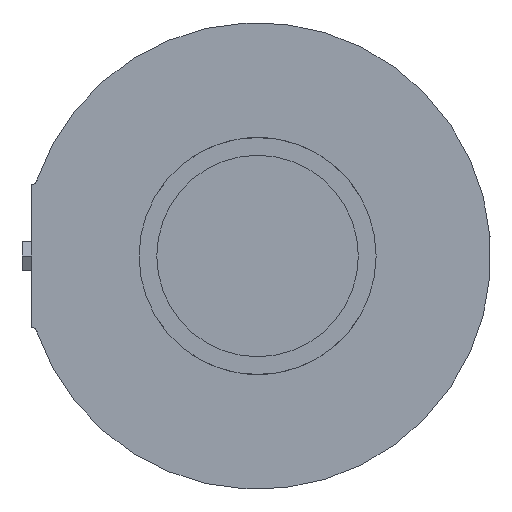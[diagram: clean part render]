
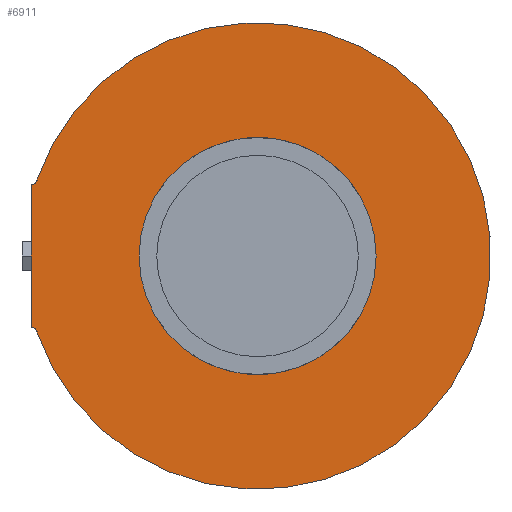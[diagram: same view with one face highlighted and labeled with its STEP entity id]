
A CAD part, front view. The second image highlights one B-rep face of the part: STEP entity #6911.
In plain terms, the highlighted planar face has unit normal (0, -1, 0).
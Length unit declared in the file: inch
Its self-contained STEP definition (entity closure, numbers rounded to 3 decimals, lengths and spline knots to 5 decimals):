
#5279=DIRECTION('',(0.,0.,-1.));
#5280=VECTOR('',#5279,1.5);
#5281=CARTESIAN_POINT('',(-2.38627,-4.9,0.75));
#5282=LINE('',#5281,#5280);
#5283=CARTESIAN_POINT('',(-2.38627,-4.9,0.81));
#5284=DIRECTION('',(0.,-1.,0.));
#5285=DIRECTION('',(0.,0.,-1.));
#5286=AXIS2_PLACEMENT_3D('',#5283,#5284,#5285);
#5288=CARTESIAN_POINT('',(0.,-4.9,0.));
#5289=DIRECTION('',(0.,1.,0.));
#5290=DIRECTION('',(-0.947,0.,0.321));
#5291=AXIS2_PLACEMENT_3D('',#5288,#5289,#5290);
#5293=CARTESIAN_POINT('',(-2.38627,-4.9,-0.81));
#5294=DIRECTION('',(0.,-1.,0.));
#5295=DIRECTION('',(0.947,0.,0.321));
#5296=AXIS2_PLACEMENT_3D('',#5293,#5294,#5295);
#6294=CARTESIAN_POINT('',(-2.32946,-4.9,0.79071));
#6295=CARTESIAN_POINT('',(-2.32946,-4.9,-0.79071));
#6296=VERTEX_POINT('',#6294);
#6297=VERTEX_POINT('',#6295);
#6538=CARTESIAN_POINT('',(-2.38627,-4.9,0.75));
#6540=VERTEX_POINT('',#6538);
#6547=CARTESIAN_POINT('',(-2.38627,-4.9,-0.75));
#6548=VERTEX_POINT('',#6547);
#6897=CARTESIAN_POINT('',(0.,-4.9,0.));
#6898=DIRECTION('',(0.,-1.,0.));
#6899=DIRECTION('',(1.,0.,0.));
#6900=AXIS2_PLACEMENT_3D('',#6897,#6898,#6899);
#6901=PLANE('',#6900);
#6903=ORIENTED_EDGE('',*,*,#6902,.F.);
#6905=ORIENTED_EDGE('',*,*,#6904,.T.);
#6906=ORIENTED_EDGE('',*,*,#6688,.T.);
#6908=ORIENTED_EDGE('',*,*,#6907,.T.);
#6909=EDGE_LOOP('',(#6903,#6905,#6906,#6908));
#6910=FACE_OUTER_BOUND('',#6909,.F.);
#6911=ADVANCED_FACE('',(#6910),#6901,.T.);
#5287=CIRCLE('',#5286,0.06);
#5292=CIRCLE('',#5291,2.46);
#5297=CIRCLE('',#5296,0.06);
#6688=EDGE_CURVE('',#6296,#6297,#5292,.T.);
#6902=EDGE_CURVE('',#6540,#6548,#5282,.T.);
#6904=EDGE_CURVE('',#6540,#6296,#5287,.T.);
#6907=EDGE_CURVE('',#6297,#6548,#5297,.T.);
